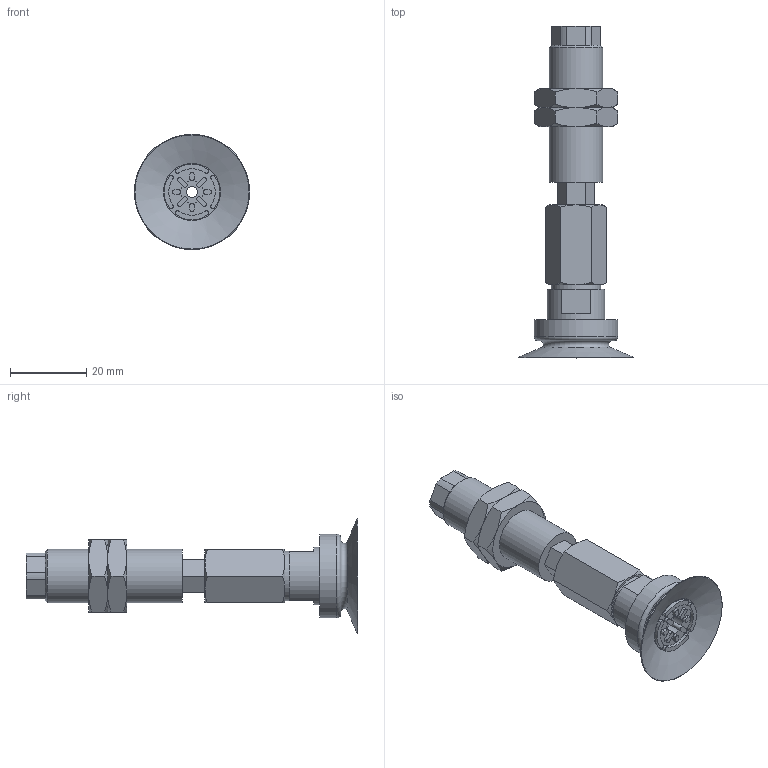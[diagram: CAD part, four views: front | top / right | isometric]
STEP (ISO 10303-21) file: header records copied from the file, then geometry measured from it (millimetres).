
FILE_DESCRIPTION(('STEP AP203'),'1');
FILE_NAME('.stp','2025-08-26T08:04:08',(' '),(' '),'Spatial InterOp 3D',' ',' ');
FILE_SCHEMA(('CONFIG_CONTROL_DESIGN'));
Length unit declared in the file: millimetre
Products named in the file (6): BNABPATH-30-6-※; ADAPTER; NAPATH-30-6--M; Nut-25-S; NAPATH-30-6--F; BPAG-30-※
Assembly tree (6 placements, depth 2):
  BNABPATH-30-6-※
    ADAPTER
    NAPATH-30-6--M
    Nut-25-S  x2
    NAPATH-30-6--F
    BPAG-30-※
Bounding box: 30.3 x 87.2 x 30.3 mm (x, y, z)
Volume: 15394.6 mm3; surface area: 11427.6 mm2
Topology: 6 solids, 6 shells, 192 faces, 453 edges, 286 vertices
Faces by surface type: plane 89, cylinder 55, cone 46, torus 2
Full cylindrical faces by diameter (mm): 3 x3, 4.134 x1, 4.6 x1, 4.917 x1, 6 x1, 12.917 x2, 13 x1, 14 x1, 15 x1, 22 x1
Entity records: 5331 total; most frequent: CARTESIAN_POINT 1146, DIRECTION 837, ORIENTED_EDGE 758, EDGE_CURVE 379, AXIS2_PLACEMENT_3D 330, VERTEX_POINT 255, EDGE_LOOP 214, FACE_OUTER_BOUND 183
